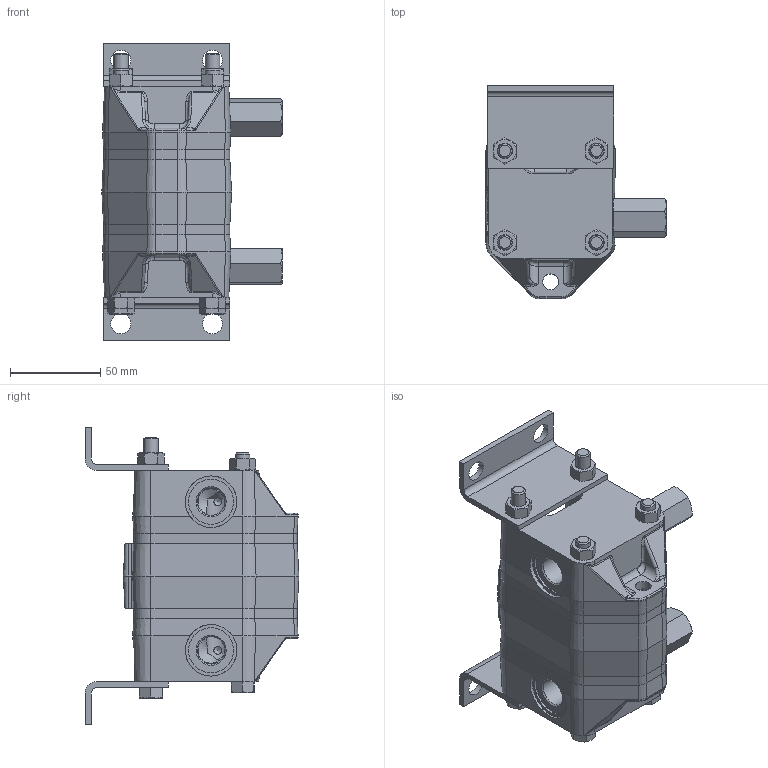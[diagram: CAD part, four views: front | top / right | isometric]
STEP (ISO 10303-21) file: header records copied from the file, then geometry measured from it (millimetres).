
FILE_DESCRIPTION(/* description */ (''),/* implementation_level */ '2;1');
FILE_NAME(/* name */ 'C:\Users\kevin\Desktop\RELATED\PM2-6RV.stp',/* time_stamp */ '2014-03-07T10:44:34-06:00',/* author */ ('kevin'),/* organization */ (''),/* preprocessor_version */ 'ST-DEVELOPER v15.2',/* originating_system */ 'Autodesk Inventor 2014',/* authorisation */ '');
FILE_SCHEMA (('AUTOMOTIVE_DESIGN { 1 0 10303 214 3 1 1 }'));
Length unit declared in the file: inch
Products named in the file (1): 85005399_Shrinkwrap_1
Bounding box: 99.95 x 118.48 x 164.89 mm (x, y, z)
Surface area: 104781.8 mm2 (no closed solid volume)
Topology: 0 solids, 24 shells, 435 faces, 1297 edges, 860 vertices
Faces by surface type: plane 184, cone 128, cylinder 69, bspline 46, torus 8
Full cylindrical faces by diameter (mm): 7.938 x4, 8.738 x2, 9.588 x2, 11.125 x4, 12.7 x3, 15.24 x2, 18.999 x1, 24.994 x2, 26.924 x2, 28.575 x2, 29.997 x1
Entity records: 18689 total; most frequent: CARTESIAN_POINT 7509, DIRECTION 2170, ORIENTED_EDGE 2098, EDGE_CURVE 1227, AXIS2_PLACEMENT_3D 849, VERTEX_POINT 836, EDGE_LOOP 570, LINE 472
